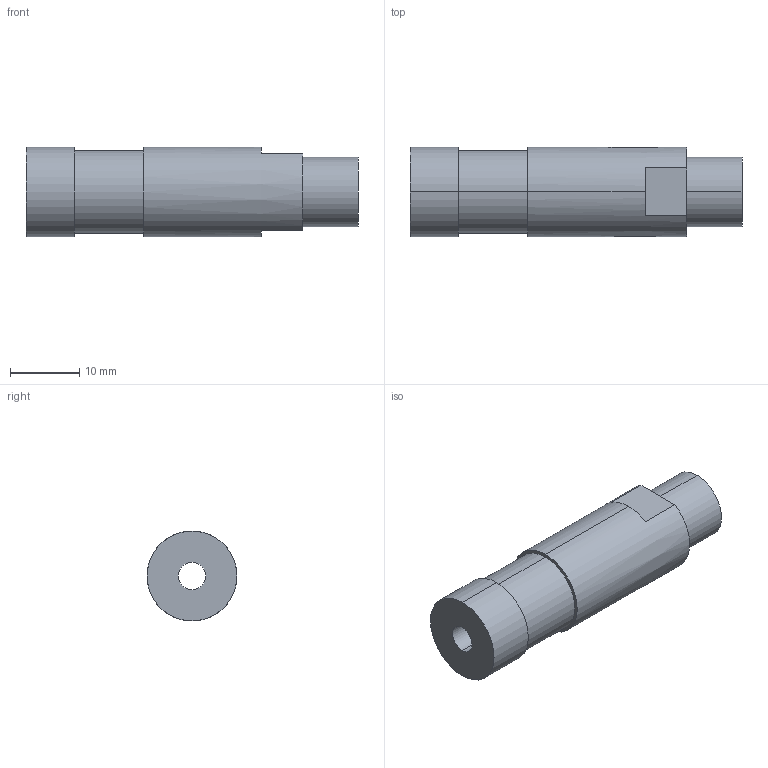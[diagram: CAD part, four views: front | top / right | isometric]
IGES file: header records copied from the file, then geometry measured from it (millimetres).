
Start section: SolidWorks IGES FILE using analytic representation for surfaces
Global section: file name: \\intra-srv04\開発データ\CAD_Data\CAD委員会\3D電子ｶﾀﾛｸﾞ\製品カタログ（新）\0_IGES\ER-AF10.IGS,41HSolidWorks 2004; native system: by SolidWorks Corporation; preprocessor: Version 5.3; author: mf1158; date: 050906.113404; units: millimetre
Bounding box: 48 x 13 x 13 mm (x, y, z)
Volume: 5081.7 mm3; surface area: 2731.8 mm2
Topology: 1 solids, 1 shells, 19 faces, 42 edges, 28 vertices
Faces by surface type: revolution 10, plane 9
